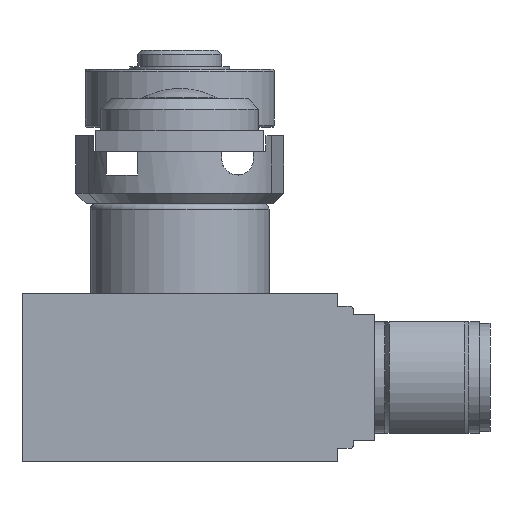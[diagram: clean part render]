
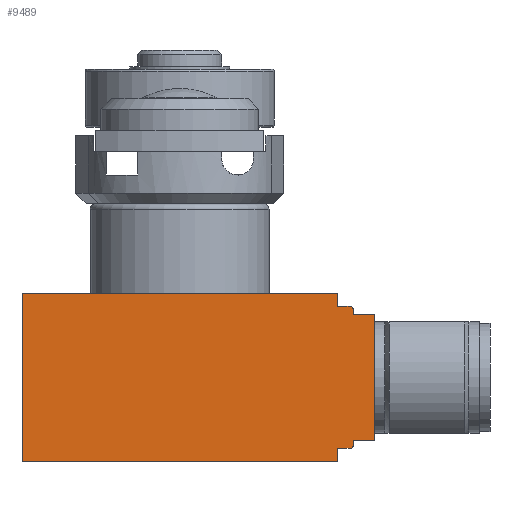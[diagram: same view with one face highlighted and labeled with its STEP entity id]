
A CAD part, front view. The second image highlights one B-rep face of the part: STEP entity #9489.
In plain terms, the highlighted planar face has unit normal (0, -1, 0) as drawn and (0, 0, -1) by its records, which use the part's own axes.
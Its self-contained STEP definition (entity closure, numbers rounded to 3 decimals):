
#45=LINE('',#14007,#1005);
#53=LINE('',#14022,#1013);
#85=LINE('',#14125,#1045);
#101=LINE('',#14170,#1061);
#117=LINE('',#14203,#1077);
#118=LINE('',#14206,#1078);
#119=LINE('',#14210,#1079);
#120=LINE('',#14212,#1080);
#121=LINE('',#14214,#1081);
#122=LINE('',#14216,#1082);
#123=LINE('',#14218,#1083);
#124=LINE('',#14221,#1084);
#1005=VECTOR('',#11047,1.25);
#1013=VECTOR('',#11055,1.25);
#1045=VECTOR('',#11159,30.);
#1061=VECTOR('',#11203,16.);
#1077=VECTOR('',#11241,30.);
#1078=VECTOR('',#11244,1.2);
#1079=VECTOR('',#11247,0.45);
#1080=VECTOR('',#11248,2.);
#1081=VECTOR('',#11249,12.);
#1082=VECTOR('',#11250,2.);
#1083=VECTOR('',#11251,0.45);
#1084=VECTOR('',#11254,1.2);
#1995=PLANE('',#10066);
#2354=FACE_OUTER_BOUND('',#2894,.T.);
#2894=EDGE_LOOP('',(#6516,#6517,#6518,#6519,#6520,#6521,#6522,#6523,#6524,
#6525,#6526,#6527,#6528,#6529));
#3442=CIRCLE('',#10067,0.3);
#3443=CIRCLE('',#10068,0.3);
#3887=VERTEX_POINT('',#13999);
#3890=VERTEX_POINT('',#14004);
#3891=VERTEX_POINT('',#14006);
#3898=VERTEX_POINT('',#14020);
#3933=VERTEX_POINT('',#14123);
#3948=VERTEX_POINT('',#14168);
#3955=VERTEX_POINT('',#14205);
#3956=VERTEX_POINT('',#14207);
#3957=VERTEX_POINT('',#14209);
#3958=VERTEX_POINT('',#14211);
#3959=VERTEX_POINT('',#14213);
#3960=VERTEX_POINT('',#14215);
#3961=VERTEX_POINT('',#14217);
#3962=VERTEX_POINT('',#14219);
#4864=EDGE_CURVE('',#3891,#3890,#45,.T.);
#4872=EDGE_CURVE('',#3887,#3898,#53,.T.);
#4921=EDGE_CURVE('',#3898,#3933,#85,.T.);
#4943=EDGE_CURVE('',#3948,#3933,#101,.T.);
#4960=EDGE_CURVE('',#3948,#3891,#117,.T.);
#4961=EDGE_CURVE('',#3890,#3955,#118,.T.);
#4962=EDGE_CURVE('',#3955,#3956,#3442,.T.);
#4963=EDGE_CURVE('',#3956,#3957,#119,.T.);
#4964=EDGE_CURVE('',#3957,#3958,#120,.T.);
#4965=EDGE_CURVE('',#3959,#3958,#121,.T.);
#4966=EDGE_CURVE('',#3960,#3959,#122,.T.);
#4967=EDGE_CURVE('',#3961,#3960,#123,.T.);
#4968=EDGE_CURVE('',#3962,#3961,#3443,.T.);
#4969=EDGE_CURVE('',#3887,#3962,#124,.T.);
#6516=ORIENTED_EDGE('',*,*,#4961,.T.);
#6517=ORIENTED_EDGE('',*,*,#4962,.T.);
#6518=ORIENTED_EDGE('',*,*,#4963,.T.);
#6519=ORIENTED_EDGE('',*,*,#4964,.T.);
#6520=ORIENTED_EDGE('',*,*,#4965,.F.);
#6521=ORIENTED_EDGE('',*,*,#4966,.F.);
#6522=ORIENTED_EDGE('',*,*,#4967,.F.);
#6523=ORIENTED_EDGE('',*,*,#4968,.F.);
#6524=ORIENTED_EDGE('',*,*,#4969,.F.);
#6525=ORIENTED_EDGE('',*,*,#4872,.T.);
#6526=ORIENTED_EDGE('',*,*,#4921,.T.);
#6527=ORIENTED_EDGE('',*,*,#4943,.F.);
#6528=ORIENTED_EDGE('',*,*,#4960,.T.);
#6529=ORIENTED_EDGE('',*,*,#4864,.T.);
#9489=ADVANCED_FACE('',(#2354),#1995,.F.);
#10066=AXIS2_PLACEMENT_3D('',#14204,#11242,#11243);
#10067=AXIS2_PLACEMENT_3D('',#14208,#11245,#11246);
#10068=AXIS2_PLACEMENT_3D('',#14220,#11252,#11253);
#11047=DIRECTION('',(0.,-1.,0.));
#11055=DIRECTION('',(0.,-1.,0.));
#11159=DIRECTION('',(-1.,0.,0.));
#11203=DIRECTION('',(0.,-1.,0.));
#11241=DIRECTION('',(1.,0.,0.));
#11242=DIRECTION('center_axis',(0.,0.,1.));
#11243=DIRECTION('ref_axis',(1.,0.,0.));
#11244=DIRECTION('',(1.,0.,0.));
#11245=DIRECTION('center_axis',(0.,0.,-1.));
#11246=DIRECTION('ref_axis',(0.707,0.707,0.));
#11247=DIRECTION('',(0.,-1.,0.));
#11248=DIRECTION('',(1.,0.,0.));
#11249=DIRECTION('',(0.,1.,0.));
#11250=DIRECTION('',(1.,0.,0.));
#11251=DIRECTION('',(0.,1.,0.));
#11252=DIRECTION('center_axis',(0.,0.,1.));
#11253=DIRECTION('ref_axis',(0.707,-0.707,0.));
#11254=DIRECTION('',(1.,0.,0.));
#13999=CARTESIAN_POINT('',(15.,-14.75,-43.));
#14004=CARTESIAN_POINT('',(15.,-1.25,-43.));
#14006=CARTESIAN_POINT('',(15.,0.,-43.));
#14007=CARTESIAN_POINT('',(15.,0.,-43.));
#14020=CARTESIAN_POINT('',(15.,-16.,-43.));
#14022=CARTESIAN_POINT('',(15.,-14.75,-43.));
#14123=CARTESIAN_POINT('',(-15.,-16.,-43.));
#14125=CARTESIAN_POINT('',(15.,-16.,-43.));
#14168=CARTESIAN_POINT('',(-15.,0.,-43.));
#14170=CARTESIAN_POINT('',(-15.,0.,-43.));
#14203=CARTESIAN_POINT('',(-15.,0.,-43.));
#14204=CARTESIAN_POINT('Origin',(1.75,-16.,-43.));
#14205=CARTESIAN_POINT('',(16.2,-1.25,-43.));
#14206=CARTESIAN_POINT('',(15.,-1.25,-43.));
#14207=CARTESIAN_POINT('',(16.5,-1.55,-43.));
#14208=CARTESIAN_POINT('Origin',(16.2,-1.55,-43.));
#14209=CARTESIAN_POINT('',(16.5,-2.,-43.));
#14210=CARTESIAN_POINT('',(16.5,-1.55,-43.));
#14211=CARTESIAN_POINT('',(18.5,-2.,-43.));
#14212=CARTESIAN_POINT('',(16.5,-2.,-43.));
#14213=CARTESIAN_POINT('',(18.5,-14.,-43.));
#14214=CARTESIAN_POINT('',(18.5,-14.,-43.));
#14215=CARTESIAN_POINT('',(16.5,-14.,-43.));
#14216=CARTESIAN_POINT('',(16.5,-14.,-43.));
#14217=CARTESIAN_POINT('',(16.5,-14.45,-43.));
#14218=CARTESIAN_POINT('',(16.5,-14.45,-43.));
#14219=CARTESIAN_POINT('',(16.2,-14.75,-43.));
#14220=CARTESIAN_POINT('Origin',(16.2,-14.45,-43.));
#14221=CARTESIAN_POINT('',(15.,-14.75,-43.));
